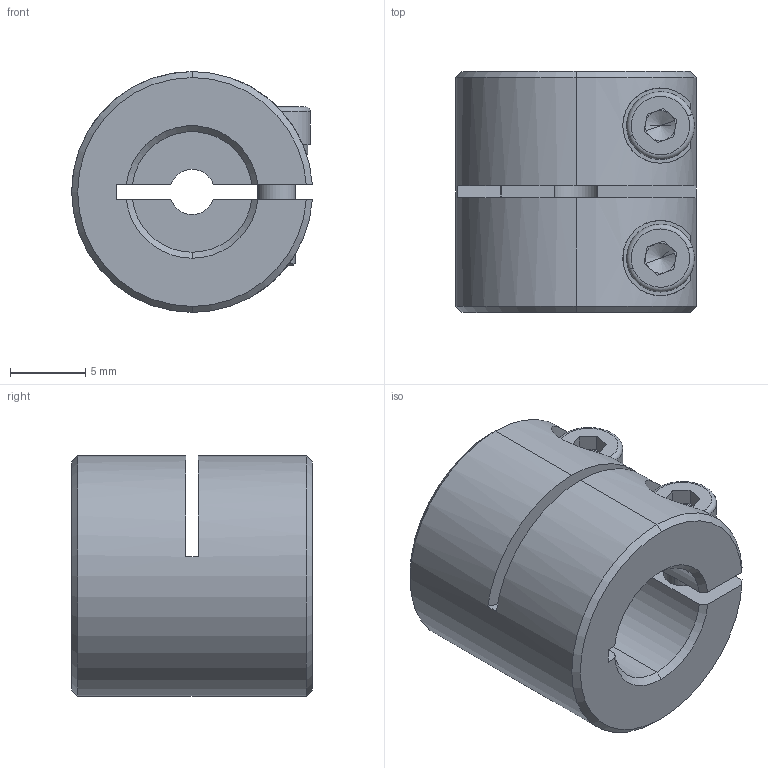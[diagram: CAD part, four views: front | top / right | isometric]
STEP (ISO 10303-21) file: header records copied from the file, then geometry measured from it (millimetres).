
FILE_DESCRIPTION (( 'STEP AP203' ), '1' );
FILE_NAME ('LL-B-D16L16-3-8.STEP', '2021-11-03T02:33:43', ( '' ), ( '' ), 'SwSTEP 2.0', 'SolidWorks 2018', '' );
FILE_SCHEMA (( 'CONFIG_CONTROL_DESIGN' ));
Length unit declared in the file: millimetre
Products named in the file (1): LL-B-D16L16-3-8
Bounding box: 15.98 x 16 x 16 mm (x, y, z)
Volume: 2570.3 mm3; surface area: 2046 mm2
Topology: 1 solids, 1 shells, 121 faces, 316 edges, 198 vertices
Faces by surface type: plane 52, cylinder 45, cone 20, torus 4
Entity records: 3985 total; most frequent: CARTESIAN_POINT 895, DIRECTION 656, ORIENTED_EDGE 624, EDGE_CURVE 312, AXIS2_PLACEMENT_3D 255, VERTEX_POINT 198, VECTOR 146, LINE 146
